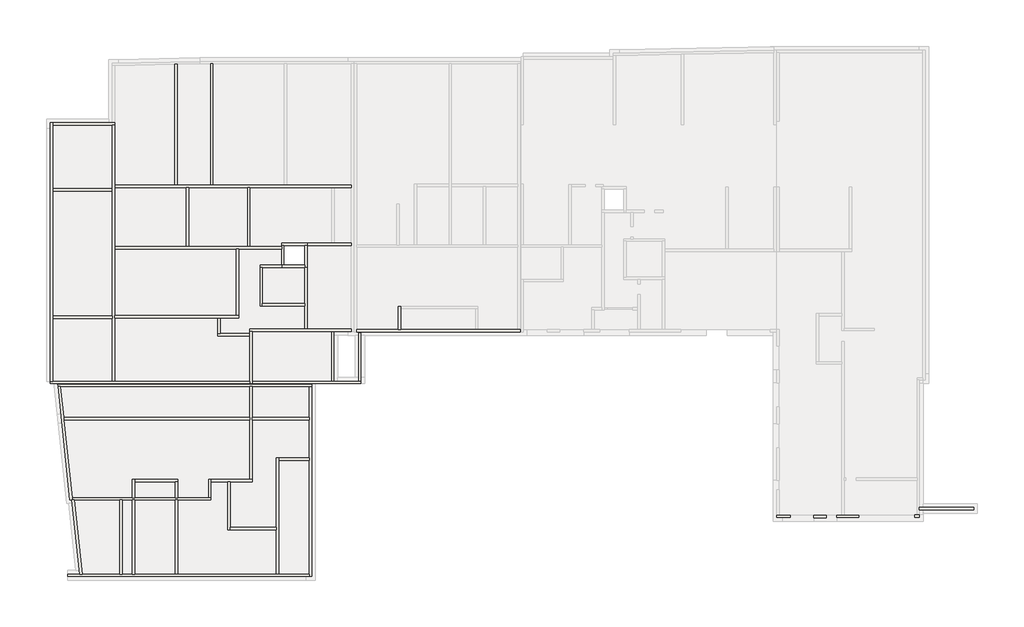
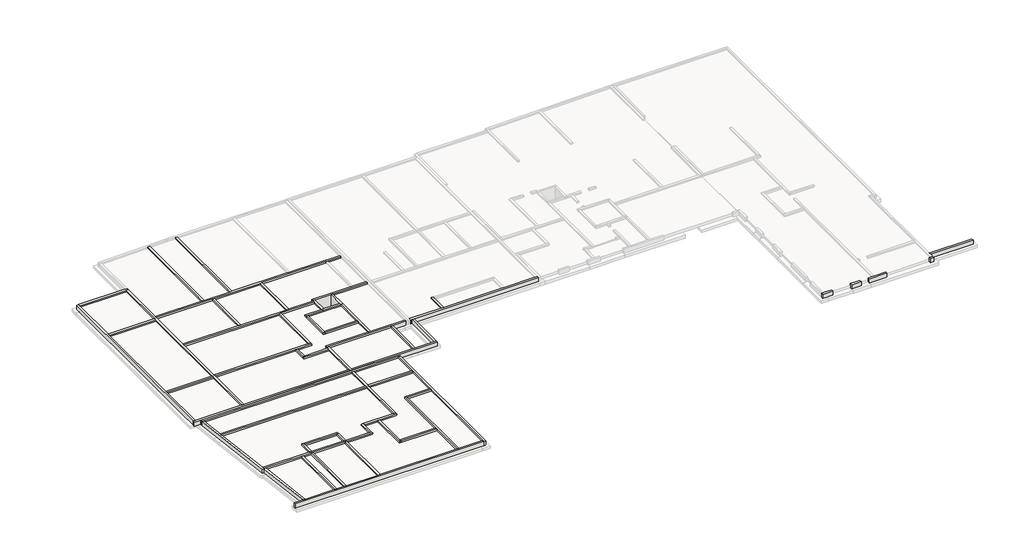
# One storey, part 1 of 5: 55 walls.
"""IFC4 building model written with IfcOpenShell, lengths in millimetres."""

from ifc_helpers import new_model, si_unit, frame, origin, place, context, project, spatial, polyline, outline, extrude, faceted_brep, element, save

model = new_model("IFC4")

# Units and contexts
model_context = context("Model", 3, world=origin())
ifc_project = project(units=[si_unit("LENGTHUNIT", "METRE", prefix="MILLI")], contexts=[model_context])

# Site, building, storey
site = spatial("IfcSite", under=ifc_project)
building = spatial("IfcBuilding", under=site)
storey = spatial("IfcBuildingStorey", under=building, Name="Base Mur soubassement", Elevation=-480.0)

# Walls
placement = place(None, origin())
element("IfcWall", 1, ObjectType="Ext. Voile BA 20", at=placement, inside=storey, context=model_context, shape_type="Brep", body=[
    faceted_brep([(71317.0236897, -917.313191, -480.0), (71117.0236897, -917.313191, -480.0), (70917.0301152, -917.313191, -480.0), (70917.0301152, -917.313191, 0.0), (71117.0236897, -917.313191, 0.0), (71317.0236897, -917.313191, 0.0), (71317.0236897, -1117.313191, -480.0), (71317.0236897, -1117.313191, 0.0), (70917.0301152, -1117.313191, 0.0), (70917.0301152, -1117.313191, -480.0)], [[[0, 1, 2, 3, 4, 5]], [[6, 7, 8, 9]], [[2, 1, 0, 6, 9]], [[3, 2, 9, 8]], [[5, 4, 3, 8, 7]], [[0, 5, 7, 6]]]),
])
element("IfcWall", 2, ObjectType="Ext. Voile BA 20", at=placement, inside=storey, context=model_context, shape_type="SweptSolid", body=[
    extrude(outline(polyline([(75887.1454515, -488.991972), (71317.0236897, -488.991972), (71317.0236897, -288.991972), (75887.1454515, -288.991972), (75887.1454515, -488.991972)])), frame((0.0, 0.0, -480.0), z_axis=(0.0, 0.0, 1.0), x_axis=(1.0, 0.0, 0.0)), (0.0, 0.0, 1.0), 480.0),
])
element("IfcWall", 3, ObjectType="Ext. Voile BA 20 + 2 enduit", at=placement, inside=storey, context=model_context, shape_type="SweptSolid", body=[
    extrude(outline(polyline([(24235.2475272, 10315.4117008), (24235.2475272, 14377.7565884), (24435.2475272, 14377.7565884), (24435.2475272, 10315.4117008), (24235.2475272, 10315.4117008)])), frame((0.0, 0.0, -480.0), z_axis=(0.0, 0.0, 1.0), x_axis=(1.0, 0.0, 0.0)), (0.0, 0.0, 1.0), 480.0),
])
element("IfcWall", 4, ObjectType="Voile BA 20", at=placement, inside=storey, context=model_context, shape_type="Brep", body=[
    faceted_brep([(66235.0708978, -937.3118451, -480.0), (65013.2256523, -937.3118451, -480.0), (64813.2256523, -937.3118451, -480.0), (64375.0708978, -937.3118451, -480.0), (64375.0708978, -937.3118451, 0.0), (64813.2256523, -937.3118451, 0.0), (65013.2256523, -937.3118451, 0.0), (66235.0708978, -937.3118451, 0.0), (66235.0708978, -1137.3118451, -480.0), (66235.0708978, -1137.3118451, 0.0), (64375.0708978, -1137.3118451, 0.0), (64375.0708978, -1137.3118451, -480.0)], [[[0, 1, 2, 3, 4, 5, 6, 7]], [[8, 9, 10, 11]], [[3, 2, 1, 0, 8, 11]], [[4, 3, 11, 10]], [[7, 6, 5, 4, 10, 9]], [[0, 7, 9, 8]]]),
])
element("IfcWall", 5, ObjectType="Voile BA 20", at=placement, inside=storey, context=model_context, shape_type="SweptSolid", body=[
    extrude(outline(polyline([(62454.5225082, -941.1001328), (63474.5225082, -941.1001328), (63474.5225082, -1141.1001328), (62454.5225082, -1141.1001328), (62454.5225082, -941.1001328)])), frame((0.0, 0.0, -480.0), z_axis=(0.0, 0.0, 1.0), x_axis=(1.0, 0.0, 0.0)), (0.0, 0.0, 1.0), 480.0),
])
element("IfcWall", 6, ObjectType="Voile BA 20", at=placement, inside=storey, context=model_context, shape_type="Brep", body=[
    faceted_brep([(60456.1712689, -933.5235574, -480.0), (59552.8933514, -933.5235574, -480.0), (59352.8933514, -933.5235574, -480.0), (59352.8933514, -933.5235574, 0.0), (59552.8933514, -933.5235574, 0.0), (60456.1712689, -933.5235574, 0.0), (60456.1712689, -1133.5235574, -480.0), (60456.1712689, -1133.5235574, 0.0), (59352.8933514, -1133.5235574, 0.0), (59352.8933514, -1133.5235574, -480.0)], [[[0, 1, 2, 3, 4, 5]], [[6, 7, 8, 9]], [[2, 1, 0, 6, 9]], [[5, 4, 3, 8, 7]], [[0, 5, 7, 6]], [[3, 2, 9, 8]]]),
])
element("IfcWall", 7, ObjectType="Voile BA 20", at=placement, inside=storey, context=model_context, shape_type="Brep", body=[
    faceted_brep([(23619.3814813, 14687.8380735, -480.0), (15109.3203129, 14687.8380735, -480.0), (15109.3203129, 14687.8380735, 0.0), (23619.3814813, 14687.8380735, 0.0), (23619.3814813, 14487.8380735, -480.0), (23619.3814813, 14487.8380735, 0.0), (22168.3655313, 14487.8380735, 0.0), (21968.3655313, 14487.8380735, 0.0), (15309.3203129, 14487.8380735, 0.0), (15109.3203129, 14487.8380735, 0.0), (15109.3203129, 14487.8380735, -480.0), (15309.3203129, 14487.8380735, -480.0), (21968.3655313, 14487.8380735, -480.0), (22168.3655313, 14487.8380735, -480.0)], [[[0, 1, 2, 3]], [[4, 5, 6, 7, 8, 9, 10, 11, 12, 13]], [[1, 0, 4, 13, 12, 11, 10]], [[3, 2, 9, 8, 7, 6, 5]], [[0, 3, 5, 4]], [[2, 1, 10, 9]]]),
])
element("IfcWall", 8, ObjectType="Voile BA 20", at=placement, inside=storey, context=model_context, shape_type="Brep", body=[
    faceted_brep([(15109.3203129, 14487.8380735, -480.0), (15109.3203129, 14317.7151114, -480.0), (15109.3203129, 14117.7151114, -480.0), (15109.3203129, 10315.4117008, -480.0), (15109.3203129, 10115.4117008, -480.0), (15109.3203129, 10115.4117008, 0.0), (15109.3203129, 10315.4117008, 0.0), (15109.3203129, 14117.7151114, 0.0), (15109.3203129, 14317.7151114, 0.0), (15109.3203129, 14487.8380735, 0.0), (15309.3203129, 14487.8380735, -480.0), (15309.3203129, 14487.8380735, 0.0), (15309.3203129, 10115.4117008, 0.0), (15309.3203129, 10115.4117008, -480.0)], [[[0, 1, 2, 3, 4, 5, 6, 7, 8, 9]], [[10, 11, 12, 13]], [[4, 3, 2, 1, 0, 10, 13]], [[9, 8, 7, 6, 5, 12, 11]], [[0, 9, 11, 10]], [[5, 4, 13, 12]]]),
])
element("IfcWall", 9, ObjectType="Voile BA 20", at=placement, inside=storey, context=model_context, shape_type="SweptSolid", body=[
    extrude(outline(polyline([(21968.3655313, 10315.4117008), (21968.3655313, 14487.8380735), (22168.3655313, 14487.8380735), (22168.3655313, 10315.4117008), (21968.3655313, 10315.4117008)])), frame((0.0, 0.0, -480.0), z_axis=(0.0, 0.0, 1.0), x_axis=(1.0, 0.0, 0.0)), (0.0, 0.0, 1.0), 480.0),
])
element("IfcWall", 10, ObjectType="Voile BA 20", at=placement, inside=storey, context=model_context, shape_type="Brep", body=[
    faceted_brep([(15109.3203129, 10315.4117008, -480.0), (3756.9078335, 10315.4117008, -480.0), (3556.9078335, 10315.4117008, -480.0), (-1463.0020232, 10315.4117008, -480.0), (-1663.0020232, 10315.4117008, -480.0), (-1663.0020232, 10315.4117008, 0.0), (-1463.0020232, 10315.4117008, 0.0), (3556.9078335, 10315.4117008, 0.0), (3756.9078335, 10315.4117008, 0.0), (15109.3203129, 10315.4117008, 0.0), (15109.3203129, 10115.4117008, -480.0), (15109.3203129, 10115.4117008, 0.0), (-1663.0020232, 10115.4117008, 0.0), (-1663.0020232, 10115.4117008, -480.0)], [[[0, 1, 2, 3, 4, 5, 6, 7, 8, 9]], [[10, 11, 12, 13]], [[4, 3, 2, 1, 0, 10, 13]], [[9, 8, 7, 6, 5, 12, 11]], [[0, 9, 11, 10]], [[5, 4, 13, 12]]]),
])
element("IfcWall", 11, ObjectType="Voile BA 20", at=placement, inside=storey, context=model_context, shape_type="Brep", body=[
    faceted_brep([(-1463.0020232, 10315.4117008, -480.0), (-1463.0020232, 15600.3661348, -480.0), (-1463.0020232, 15800.3661348, -480.0), (-1463.0020232, 26308.0923089, -480.0), (-1463.0020232, 26508.0923089, -480.0), (-1463.0020232, 31828.092309, -480.0), (-1463.0020232, 32028.092309, -480.0), (-1463.0020232, 32028.092309, 0.0), (-1463.0020232, 31828.092309, 0.0), (-1463.0020232, 26508.0923089, 0.0), (-1463.0020232, 26308.0923089, 0.0), (-1463.0020232, 15800.3661348, 0.0), (-1463.0020232, 15600.3661348, 0.0), (-1463.0020232, 10315.4117008, 0.0), (-1663.0020232, 10315.4117008, -480.0), (-1663.0020232, 10315.4117008, 0.0), (-1663.0020232, 32028.092309, 0.0), (-1663.0020232, 32028.092309, -480.0)], [[[0, 1, 2, 3, 4, 5, 6, 7, 8, 9, 10, 11, 12, 13]], [[14, 15, 16, 17]], [[6, 5, 4, 3, 2, 1, 0, 14, 17]], [[13, 12, 11, 10, 9, 8, 7, 16, 15]], [[0, 13, 15, 14]], [[7, 6, 17, 16]]]),
])
element("IfcWall", 12, ObjectType="Voile BA 20", at=placement, inside=storey, context=model_context, shape_type="Brep", body=[
    faceted_brep([(-1463.0020232, 31828.092309, -480.0), (3556.9078335, 31828.092309, -480.0), (3756.9078335, 31828.092309, -480.0), (3756.9078335, 31828.092309, 0.0), (3556.9078335, 31828.092309, 0.0), (-1463.0020232, 31828.092309, 0.0), (-1463.0020232, 32028.092309, -480.0), (-1463.0020232, 32028.092309, 0.0), (3556.9078335, 32028.092309, 0.0), (3756.9078335, 32028.092309, 0.0), (3756.9078335, 32028.092309, -480.0), (3556.9078335, 32028.092309, -480.0)], [[[0, 1, 2, 3, 4, 5]], [[6, 7, 8, 9, 10, 11]], [[2, 1, 0, 6, 11, 10]], [[5, 4, 3, 9, 8, 7]], [[0, 5, 7, 6]], [[3, 2, 10, 9]]]),
])
element("IfcWall", 13, ObjectType="Voile BA 20", at=placement, inside=storey, context=model_context, shape_type="SweptSolid", body=[
    extrude(outline(polyline([(11803.2656575, 26787.8872551), (11803.2656575, 36982.4079561), (12003.2656575, 36982.4079561), (12003.2656575, 26787.8872551), (11803.2656575, 26787.8872551)])), frame((0.0, 0.0, -480.0), z_axis=(0.0, 0.0, 1.0), x_axis=(1.0, 0.0, 0.0)), (0.0, 0.0, 1.0), 480.0),
])
element("IfcWall", 14, ObjectType="Voile BA 20", at=placement, inside=storey, context=model_context, shape_type="SweptSolid", body=[
    extrude(outline(polyline([(8817.5794193, 26787.8872551), (8817.5794193, 36940.9323768), (9017.5794193, 36944.9143723), (9017.5794193, 26787.8872551), (8817.5794193, 26787.8872551)])), frame((0.0, 0.0, -480.0), z_axis=(0.0, 0.0, 1.0), x_axis=(1.0, 0.0, 0.0)), (0.0, 0.0, 1.0), 480.0),
])
element("IfcWall", 15, ObjectType="Voile BA 20", at=placement, inside=storey, context=model_context, shape_type="Brep", body=[
    faceted_brep([(23619.3814813, 26787.8872551, -480.0), (18199.2548774, 26787.8872551, -480.0), (17999.2548774, 26787.8872551, -480.0), (12003.2656575, 26787.8872551, -480.0), (11803.2656575, 26787.8872551, -480.0), (9017.5794193, 26787.8872551, -480.0), (8817.5794193, 26787.8872551, -480.0), (3756.9078335, 26787.8872551, -480.0), (3756.9078335, 26787.8872551, 0.0), (8817.5794193, 26787.8872551, 0.0), (9017.5794193, 26787.8872551, 0.0), (11803.2656575, 26787.8872551, 0.0), (12003.2656575, 26787.8872551, 0.0), (17999.2548774, 26787.8872551, 0.0), (18199.2548774, 26787.8872551, 0.0), (23619.3814813, 26787.8872551, 0.0), (23619.3814813, 26587.8872551, -480.0), (23619.3814813, 26587.8872551, 0.0), (22195.0786989, 26587.8872551, 0.0), (21995.0786989, 26587.8872551, 0.0), (15113.9907355, 26587.8872551, 0.0), (14913.9907355, 26587.8872551, 0.0), (9978.0983694, 26587.8872551, 0.0), (9778.0983694, 26587.8872551, 0.0), (3756.9078335, 26587.8872551, 0.0), (3756.9078335, 26587.8872551, -480.0), (9778.0983694, 26587.8872551, -480.0), (9978.0983694, 26587.8872551, -480.0), (14913.9907355, 26587.8872551, -480.0), (15113.9907355, 26587.8872551, -480.0), (21995.0786989, 26587.8872551, -480.0), (22195.0786989, 26587.8872551, -480.0)], [[[0, 1, 2, 3, 4, 5, 6, 7, 8, 9, 10, 11, 12, 13, 14, 15]], [[16, 17, 18, 19, 20, 21, 22, 23, 24, 25, 26, 27, 28, 29, 30, 31]], [[7, 6, 5, 4, 3, 2, 1, 0, 16, 31, 30, 29, 28, 27, 26, 25]], [[15, 14, 13, 12, 11, 10, 9, 8, 24, 23, 22, 21, 20, 19, 18, 17]], [[0, 15, 17, 16]], [[8, 7, 25, 24]]]),
])
element("IfcWall", 16, ObjectType="Voile BA 20", at=placement, inside=storey, context=model_context, shape_type="Brep", body=[
    faceted_brep([(3556.9078335, 31828.092309, -480.0), (3556.9078335, 26508.0923089, -480.0), (3556.9078335, 26308.0923089, -480.0), (3556.9078335, 15800.3661348, -480.0), (3556.9078335, 15600.3661348, -480.0), (3556.9078335, 10315.4117008, -480.0), (3556.9078335, 10315.4117008, 0.0), (3556.9078335, 15600.3661348, 0.0), (3556.9078335, 15800.3661348, 0.0), (3556.9078335, 26308.0923089, 0.0), (3556.9078335, 26508.0923089, 0.0), (3556.9078335, 31828.092309, 0.0), (3756.9078335, 31828.092309, -480.0), (3756.9078335, 31828.092309, 0.0), (3756.9078335, 26787.8872551, 0.0), (3756.9078335, 26587.8872551, 0.0), (3756.9078335, 21625.9455164, 0.0), (3756.9078335, 21425.9455164, 0.0), (3756.9078335, 15849.6332906, 0.0), (3756.9078335, 15649.6332906, 0.0), (3756.9078335, 10315.4117008, 0.0), (3756.9078335, 10315.4117008, -480.0), (3756.9078335, 15649.6332906, -480.0), (3756.9078335, 15849.6332906, -480.0), (3756.9078335, 21425.9455164, -480.0), (3756.9078335, 21625.9455164, -480.0), (3756.9078335, 26587.8872551, -480.0), (3756.9078335, 26787.8872551, -480.0)], [[[0, 1, 2, 3, 4, 5, 6, 7, 8, 9, 10, 11]], [[12, 13, 14, 15, 16, 17, 18, 19, 20, 21, 22, 23, 24, 25, 26, 27]], [[5, 4, 3, 2, 1, 0, 12, 27, 26, 25, 24, 23, 22, 21]], [[11, 10, 9, 8, 7, 6, 20, 19, 18, 17, 16, 15, 14, 13]], [[0, 11, 13, 12]], [[6, 5, 21, 20]]]),
])
element("IfcWall", 17, ObjectType="Voile BA 20", at=placement, inside=storey, context=model_context, shape_type="SweptSolid", body=[
    extrude(outline(polyline([(-1463.0020232, 15800.3661348), (3556.9078335, 15800.3661348), (3556.9078335, 15600.3661348), (-1463.0020232, 15600.3661348), (-1463.0020232, 15800.3661348)])), frame((0.0, 0.0, -480.0), z_axis=(0.0, 0.0, 1.0), x_axis=(1.0, 0.0, 0.0)), (0.0, 0.0, 1.0), 480.0),
])
element("IfcWall", 18, ObjectType="Voile BA 20", at=placement, inside=storey, context=model_context, shape_type="SweptSolid", body=[
    extrude(outline(polyline([(-1463.0020232, 26508.0923089), (3556.9078335, 26508.0923089), (3556.9078335, 26308.0923089), (-1463.0020232, 26308.0923089), (-1463.0020232, 26508.0923089)])), frame((0.0, 0.0, -480.0), z_axis=(0.0, 0.0, 1.0), x_axis=(1.0, 0.0, 0.0)), (0.0, 0.0, 1.0), 480.0),
])
element("IfcWall", 19, ObjectType="Voile BA 20", at=placement, inside=storey, context=model_context, shape_type="Brep", body=[
    faceted_brep([(20295.920738, 10065.4625547, -480.0), (-1019.2711952, 10065.4625547, -480.0), (-1019.2711952, 10065.4625547, 0.0), (20295.920738, 10065.4625547, 0.0), (20295.920738, 9865.4625547, -480.0), (20295.920738, 9865.4625547, 0.0), (20095.920738, 9865.4625547, 0.0), (15309.3203129, 9865.4625547, 0.0), (15109.3203129, 9865.4625547, 0.0), (-797.1486922, 9865.4625547, 0.0), (-998.2503481, 9865.4625547, 0.0), (-998.2503481, 9865.4625547, -480.0), (-797.1486922, 9865.4625547, -480.0), (15109.3203129, 9865.4625547, -480.0), (15309.3203129, 9865.4625547, -480.0), (20095.920738, 9865.4625547, -480.0)], [[[0, 1, 2, 3]], [[4, 5, 6, 7, 8, 9, 10, 11, 12, 13, 14, 15]], [[1, 0, 4, 15, 14, 13, 12, 11]], [[3, 2, 10, 9, 8, 7, 6, 5]], [[2, 1, 11, 10]], [[0, 3, 5, 4]]]),
])
element("IfcWall", 20, ObjectType="Voile BA 20", at=placement, inside=storey, context=model_context, shape_type="Brep", body=[
    faceted_brep([(-998.2503481, 9865.4625547, -480.0), (2.7965204, 341.1378118, -480.0), (2.7965204, 341.1378118, 0.0), (-998.2503481, 9865.4625547, 0.0), (-797.1486922, 9865.4625547, -480.0), (-797.1486922, 9865.4625547, 0.0), (-524.2025618, 7268.5535935, 0.0), (-503.1817148, 7068.5535935, 0.0), (182.8773292, 541.1378118, 0.0), (203.8981763, 341.1378118, 0.0), (203.8981763, 341.1378118, -480.0), (182.8773292, 541.1378118, -480.0), (-503.1817148, 7068.5535935, -480.0), (-524.2025618, 7268.5535935, -480.0), (162.0229554, 341.1378118, -480.0), (162.0229554, 341.1378118, 0.0)], [[[0, 1, 2, 3]], [[4, 5, 6, 7, 8, 9, 10, 11, 12, 13]], [[1, 0, 4, 13, 12, 11, 10, 14]], [[3, 2, 15, 9, 8, 7, 6, 5]], [[0, 3, 5, 4]], [[2, 1, 14, 10, 9, 15]]]),
])
element("IfcWall", 21, ObjectType="Voile BA 20", at=placement, inside=storey, context=model_context, shape_type="Brep", body=[
    faceted_brep([(203.8981763, 341.1378118, -480.0), (363.1246113, 341.1378118, -480.0), (4182.6863545, 341.1378118, -480.0), (4382.6863545, 341.1378118, -480.0), (5232.5686745, 341.1378118, -480.0), (5432.5686745, 341.1378118, -480.0), (8859.0521384, 341.1378118, -480.0), (9059.0521384, 341.1378118, -480.0), (11842.4727838, 341.1378118, -480.0), (11842.4727838, 341.1378118, 0.0), (9059.0521384, 341.1378118, 0.0), (8859.0521384, 341.1378118, 0.0), (5432.5686745, 341.1378118, 0.0), (5232.5686745, 341.1378118, 0.0), (4382.6863545, 341.1378118, 0.0), (4182.6863545, 341.1378118, 0.0), (363.1246113, 341.1378118, 0.0), (203.8981763, 341.1378118, 0.0), (182.8773292, 541.1378118, -480.0), (182.8773292, 541.1378118, 0.0), (5232.5686745, 541.1378118, 0.0), (5432.5686745, 541.1378118, 0.0), (8859.0521384, 541.1378118, 0.0), (9059.0521384, 541.1378118, 0.0), (11642.4727838, 541.1378118, 0.0), (11842.4727838, 541.1378118, 0.0), (11842.4727838, 541.1378118, -480.0), (11642.4727838, 541.1378118, -480.0), (9059.0521384, 541.1378118, -480.0), (8859.0521384, 541.1378118, -480.0), (5432.5686745, 541.1378118, -480.0), (5232.5686745, 541.1378118, -480.0)], [[[0, 1, 2, 3, 4, 5, 6, 7, 8, 9, 10, 11, 12, 13, 14, 15, 16, 17]], [[18, 19, 20, 21, 22, 23, 24, 25, 26, 27, 28, 29, 30, 31]], [[8, 7, 6, 5, 4, 3, 2, 1, 0, 18, 31, 30, 29, 28, 27, 26]], [[17, 16, 15, 14, 13, 12, 11, 10, 9, 25, 24, 23, 22, 21, 20, 19]], [[9, 8, 26, 25]], [[0, 17, 19, 18]]]),
])
element("IfcWall", 22, ObjectType="Voile BA 20", at=placement, inside=storey, context=model_context, shape_type="Brep", body=[
    faceted_brep([(11842.4727838, 541.1378118, -480.0), (11842.4727838, 1854.5667291, -480.0), (11842.4727838, 2054.5667291, -480.0), (11842.4727838, 2054.5667291, 0.0), (11842.4727838, 1854.5667291, 0.0), (11842.4727838, 541.1378118, 0.0), (11642.4727838, 541.1378118, -480.0), (11642.4727838, 541.1378118, 0.0), (11642.4727838, 2054.5667291, 0.0), (11642.4727838, 2054.5667291, -480.0)], [[[0, 1, 2, 3, 4, 5]], [[6, 7, 8, 9]], [[2, 1, 0, 6, 9]], [[5, 4, 3, 8, 7]], [[0, 5, 7, 6]], [[3, 2, 9, 8]]]),
])
element("IfcWall", 23, ObjectType="Voile BA 20", at=placement, inside=storey, context=model_context, shape_type="Brep", body=[
    faceted_brep([(11842.4727838, 1854.5667291, -480.0), (13265.8329945, 1854.5667291, -480.0), (13465.8329945, 1854.5667291, -480.0), (15309.3203129, 1854.5667291, -480.0), (15309.3203129, 1854.5667291, 0.0), (13465.8329945, 1854.5667291, 0.0), (13265.8329945, 1854.5667291, 0.0), (11842.4727838, 1854.5667291, 0.0), (11842.4727838, 2054.5667291, -480.0), (11842.4727838, 2054.5667291, 0.0), (15109.3203129, 2054.5667291, 0.0), (15309.3203129, 2054.5667291, 0.0), (15309.3203129, 2054.5667291, -480.0), (15109.3203129, 2054.5667291, -480.0)], [[[0, 1, 2, 3, 4, 5, 6, 7]], [[8, 9, 10, 11, 12, 13]], [[3, 2, 1, 0, 8, 13, 12]], [[7, 6, 5, 4, 11, 10, 9]], [[0, 7, 9, 8]], [[4, 3, 12, 11]]]),
])
element("IfcWall", 24, ObjectType="Voile BA 20", at=placement, inside=storey, context=model_context, shape_type="Brep", body=[
    faceted_brep([(15309.3203129, 2054.5667291, -480.0), (15309.3203129, 7068.5535935, -480.0), (15309.3203129, 7268.5535935, -480.0), (15309.3203129, 9865.4625547, -480.0), (15309.3203129, 9865.4625547, 0.0), (15309.3203129, 7268.5535935, 0.0), (15309.3203129, 7068.5535935, 0.0), (15309.3203129, 2054.5667291, 0.0), (15109.3203129, 2054.5667291, -480.0), (15109.3203129, 2054.5667291, 0.0), (15109.3203129, 7068.5535935, 0.0), (15109.3203129, 7268.5535935, 0.0), (15109.3203129, 9865.4625547, 0.0), (15109.3203129, 9865.4625547, -480.0), (15109.3203129, 7268.5535935, -480.0), (15109.3203129, 7068.5535935, -480.0)], [[[0, 1, 2, 3, 4, 5, 6, 7]], [[8, 9, 10, 11, 12, 13, 14, 15]], [[3, 2, 1, 0, 8, 15, 14, 13]], [[7, 6, 5, 4, 12, 11, 10, 9]], [[0, 7, 9, 8]], [[4, 3, 13, 12]]]),
])
element("IfcWall", 25, ObjectType="Voile BA 20", at=placement, inside=storey, context=model_context, shape_type="SweptSolid", body=[
    extrude(outline(polyline([(-503.1817148, 7068.5535935), (-524.2025618, 7268.5535935), (15109.3203129, 7268.5535935), (15109.3203129, 7068.5535935), (-503.1817148, 7068.5535935)])), frame((0.0, 0.0, -480.0), z_axis=(0.0, 0.0, 1.0), x_axis=(1.0, 0.0, 0.0)), (0.0, 0.0, 1.0), 480.0),
    extrude(outline(polyline([(20095.920738, 7268.5535935), (20095.920738, 7068.5535935), (15309.3203129, 7068.5535935), (15309.3203129, 7268.5535935), (20095.920738, 7268.5535935)])), frame((0.0, 0.0, -480.0), z_axis=(0.0, 0.0, 1.0), x_axis=(1.0, 0.0, 0.0)), (0.0, 0.0, 1.0), 480.0),
])
element("IfcWall", 26, ObjectType="Voile BA 20", at=placement, inside=storey, context=model_context, shape_type="Brep", body=[
    faceted_brep([(20095.920738, 9865.4625547, -480.0), (20095.920738, 7268.5535935, -480.0), (20095.920738, 7068.5535935, -480.0), (20095.920738, 3881.8208674, -480.0), (20095.920738, 3681.8208674, -480.0), (20095.920738, -5885.1620119, -480.0), (20095.920738, -6085.1620119, -480.0), (20095.920738, -6085.1620119, 0.0), (20095.920738, -5885.1620119, 0.0), (20095.920738, 3681.8208674, 0.0), (20095.920738, 3881.8208674, 0.0), (20095.920738, 7068.5535935, 0.0), (20095.920738, 7268.5535935, 0.0), (20095.920738, 9865.4625547, 0.0), (20295.920738, 9865.4625547, -480.0), (20295.920738, 9865.4625547, 0.0), (20295.920738, -6085.1620119, 0.0), (20295.920738, -6085.1620119, -480.0)], [[[0, 1, 2, 3, 4, 5, 6, 7, 8, 9, 10, 11, 12, 13]], [[14, 15, 16, 17]], [[6, 5, 4, 3, 2, 1, 0, 14, 17]], [[13, 12, 11, 10, 9, 8, 7, 16, 15]], [[0, 13, 15, 14]], [[7, 6, 17, 16]]]),
])
element("IfcWall", 27, ObjectType="Voile BA 20", at=placement, inside=storey, context=model_context, shape_type="Brep", body=[
    faceted_brep([(20095.920738, -5885.1620119, -480.0), (17523.8377948, -5885.1620119, -480.0), (17323.8377948, -5885.1620119, -480.0), (9059.0521384, -5885.1620119, -480.0), (8859.0521384, -5885.1620119, -480.0), (5432.5686745, -5885.1620119, -480.0), (5232.5686745, -5885.1620119, -480.0), (4382.6863545, -5885.1620119, -480.0), (4182.6863545, -5885.1620119, -480.0), (1017.5350928, -5885.1620119, -480.0), (816.4334369, -5885.1620119, -480.0), (-184.0651209, -5885.1620119, -480.0), (-184.0651209, -5885.1620119, 0.0), (816.4334369, -5885.1620119, 0.0), (1017.5350928, -5885.1620119, 0.0), (4182.6863545, -5885.1620119, 0.0), (4382.6863545, -5885.1620119, 0.0), (5232.5686745, -5885.1620119, 0.0), (5432.5686745, -5885.1620119, 0.0), (8859.0521384, -5885.1620119, 0.0), (9059.0521384, -5885.1620119, 0.0), (17323.8377948, -5885.1620119, 0.0), (17523.8377948, -5885.1620119, 0.0), (20095.920738, -5885.1620119, 0.0), (20095.920738, -6085.1620119, -480.0), (20095.920738, -6085.1620119, 0.0), (-184.0651209, -6085.1620119, 0.0), (-184.0651209, -6085.1620119, -480.0)], [[[0, 1, 2, 3, 4, 5, 6, 7, 8, 9, 10, 11, 12, 13, 14, 15, 16, 17, 18, 19, 20, 21, 22, 23]], [[24, 25, 26, 27]], [[11, 10, 9, 8, 7, 6, 5, 4, 3, 2, 1, 0, 24, 27]], [[12, 11, 27, 26]], [[23, 22, 21, 20, 19, 18, 17, 16, 15, 14, 13, 12, 26, 25]], [[0, 23, 25, 24]]]),
])
element("IfcWall", 28, ObjectType="Voile BA 20", at=placement, inside=storey, context=model_context, shape_type="Brep", body=[
    faceted_brep([(162.0229554, 341.1378118, -480.0), (816.4334369, -5885.1620119, -480.0), (816.4334369, -5885.1620119, 0.0), (162.0229554, 341.1378118, 0.0), (363.1246113, 341.1378118, -480.0), (363.1246113, 341.1378118, 0.0), (1017.5350928, -5885.1620119, 0.0), (1017.5350928, -5885.1620119, -480.0), (203.8981763, 341.1378118, -480.0), (203.8981763, 341.1378118, 0.0)], [[[0, 1, 2, 3]], [[4, 5, 6, 7]], [[1, 0, 8, 4, 7]], [[3, 2, 6, 5, 9]], [[0, 3, 9, 5, 4, 8]], [[2, 1, 7, 6]]]),
])
element("IfcWall", 29, ObjectType="Voile BA 20", at=placement, inside=storey, context=model_context, shape_type="SweptSolid", body=[
    extrude(outline(polyline([(4182.6863545, -5885.1620119), (4182.6863545, 341.1378118), (4382.6863545, 341.1378118), (4382.6863545, -5885.1620119), (4182.6863545, -5885.1620119)])), frame((0.0, 0.0, -480.0), z_axis=(0.0, 0.0, 1.0), x_axis=(1.0, 0.0, 0.0)), (0.0, 0.0, 1.0), 480.0),
])
element("IfcWall", 30, ObjectType="Voile BA 20", at=placement, inside=storey, context=model_context, shape_type="Brep", body=[
    faceted_brep([(5232.5686745, -5885.1620119, -480.0), (5232.5686745, -5885.1620119, 0.0), (5232.5686745, 341.1378118, 0.0), (5232.5686745, 341.1378118, -480.0), (5432.5686745, -5885.1620119, 0.0), (5432.5686745, -5885.1620119, -480.0), (5432.5686745, 341.1378118, -480.0), (5432.5686745, 341.1378118, 0.0)], [[[0, 1, 2, 3]], [[4, 5, 6, 7]], [[5, 0, 3, 6]], [[1, 4, 7, 2]], [[1, 0, 5, 4]], [[3, 2, 7, 6]]]),
    faceted_brep([(5232.5686745, 2054.6479064, 0.0), (5232.5686745, 2054.6479064, -480.0), (5232.5686745, 541.1378118, -480.0), (5232.5686745, 541.1378118, 0.0), (5432.5686745, 2054.6479064, -480.0), (5432.5686745, 2054.6479064, 0.0), (5432.5686745, 1854.6479064, 0.0), (5432.5686745, 541.1378118, 0.0), (5432.5686745, 541.1378118, -480.0), (5432.5686745, 1854.6479064, -480.0)], [[[0, 1, 2, 3]], [[4, 5, 6, 7, 8, 9]], [[1, 4, 9, 8, 2]], [[5, 0, 3, 7, 6]], [[3, 2, 8, 7]], [[1, 0, 5, 4]]]),
])
element("IfcWall", 31, ObjectType="Voile BA 20", at=placement, inside=storey, context=model_context, shape_type="Brep", body=[
    faceted_brep([(9059.0521384, 2054.6479064, -480.0), (5432.5686745, 2054.6479064, -480.0), (5432.5686745, 2054.6479064, 0.0), (9059.0521384, 2054.6479064, 0.0), (9059.0521384, 1854.6479064, -480.0), (9059.0521384, 1854.6479064, 0.0), (8859.0521384, 1854.6479064, 0.0), (5432.5686745, 1854.6479064, 0.0), (5432.5686745, 1854.6479064, -480.0), (8859.0521384, 1854.6479064, -480.0)], [[[0, 1, 2, 3]], [[4, 5, 6, 7, 8, 9]], [[1, 0, 4, 9, 8]], [[3, 2, 7, 6, 5]], [[2, 1, 8, 7]], [[0, 3, 5, 4]]]),
])
element("IfcWall", 32, ObjectType="Voile BA 20", at=placement, inside=storey, context=model_context, shape_type="SweptSolid", body=[
    extrude(outline(polyline([(8859.0521384, 1854.6479064), (9059.0521384, 1854.6479064), (9059.0521384, 541.1378118), (8859.0521384, 541.1378118), (8859.0521384, 1854.6479064)])), frame((0.0, 0.0, -480.0), z_axis=(0.0, 0.0, 1.0), x_axis=(1.0, 0.0, 0.0)), (0.0, 0.0, 1.0), 480.0),
    extrude(outline(polyline([(9059.0521384, -5885.1620119), (8859.0521384, -5885.1620119), (8859.0521384, 341.1378118), (9059.0521384, 341.1378118), (9059.0521384, -5885.1620119)])), frame((0.0, 0.0, -480.0), z_axis=(0.0, 0.0, 1.0), x_axis=(1.0, 0.0, 0.0)), (0.0, 0.0, 1.0), 480.0),
])
element("IfcWall", 33, ObjectType="Voile BA 20", at=placement, inside=storey, context=model_context, shape_type="Brep", body=[
    faceted_brep([(13265.8329945, 1854.5667291, -480.0), (13265.8329945, -2145.4332709, -480.0), (13265.8329945, -2145.4332709, 0.0), (13265.8329945, 1854.5667291, 0.0), (13465.8329945, 1854.5667291, -480.0), (13465.8329945, 1854.5667291, 0.0), (13465.8329945, -1945.4332709, 0.0), (13465.8329945, -2145.4332709, 0.0), (13465.8329945, -2145.4332709, -480.0), (13465.8329945, -1945.4332709, -480.0)], [[[0, 1, 2, 3]], [[4, 5, 6, 7, 8, 9]], [[1, 0, 4, 9, 8]], [[3, 2, 7, 6, 5]], [[0, 3, 5, 4]], [[2, 1, 8, 7]]]),
])
element("IfcWall", 34, ObjectType="Voile BA 20", at=placement, inside=storey, context=model_context, shape_type="SweptSolid", body=[
    extrude(outline(polyline([(17323.8377948, -2145.4332709), (13465.8329945, -2145.4332709), (13465.8329945, -1945.4332709), (17323.8377948, -1945.4332709), (17323.8377948, -2145.4332709)])), frame((0.0, 0.0, -480.0), z_axis=(0.0, 0.0, 1.0), x_axis=(1.0, 0.0, 0.0)), (0.0, 0.0, 1.0), 480.0),
])
element("IfcWall", 35, ObjectType="Voile BA 20", at=placement, inside=storey, context=model_context, shape_type="Brep", body=[
    faceted_brep([(17323.8377948, 3881.8208674, -480.0), (17323.8377948, -1945.4332709, -480.0), (17323.8377948, -2145.4332709, -480.0), (17323.8377948, -5885.1620119, -480.0), (17323.8377948, -5885.1620119, 0.0), (17323.8377948, -2145.4332709, 0.0), (17323.8377948, -1945.4332709, 0.0), (17323.8377948, 3881.8208674, 0.0), (17523.8377948, 3881.8208674, -480.0), (17523.8377948, 3881.8208674, 0.0), (17523.8377948, 3681.8208674, 0.0), (17523.8377948, -5885.1620119, 0.0), (17523.8377948, -5885.1620119, -480.0), (17523.8377948, 3681.8208674, -480.0)], [[[0, 1, 2, 3, 4, 5, 6, 7]], [[8, 9, 10, 11, 12, 13]], [[3, 2, 1, 0, 8, 13, 12]], [[7, 6, 5, 4, 11, 10, 9]], [[0, 7, 9, 8]], [[4, 3, 12, 11]]]),
])
element("IfcWall", 36, ObjectType="Voile BA 20", at=placement, inside=storey, context=model_context, shape_type="SweptSolid", body=[
    extrude(outline(polyline([(20095.920738, 3681.8208674), (17523.8377948, 3681.8208674), (17523.8377948, 3881.8208674), (20095.920738, 3881.8208674), (20095.920738, 3681.8208674)])), frame((0.0, 0.0, -480.0), z_axis=(0.0, 0.0, 1.0), x_axis=(1.0, 0.0, 0.0)), (0.0, 0.0, 1.0), 480.0),
])
element("IfcWall", 37, ObjectType="Voile BA 20", at=placement, inside=storey, context=model_context, shape_type="Brep", body=[
    faceted_brep([(15109.3203129, 14317.7151114, -480.0), (12609.3203129, 14317.7151114, -480.0), (12409.3203129, 14317.7151114, -480.0), (12409.3203129, 14317.7151114, 0.0), (12609.3203129, 14317.7151114, 0.0), (15109.3203129, 14317.7151114, 0.0), (15109.3203129, 14117.7151114, -480.0), (15109.3203129, 14117.7151114, 0.0), (12409.3203129, 14117.7151114, 0.0), (12409.3203129, 14117.7151114, -480.0)], [[[0, 1, 2, 3, 4, 5]], [[6, 7, 8, 9]], [[2, 1, 0, 6, 9]], [[5, 4, 3, 8, 7]], [[0, 5, 7, 6]], [[3, 2, 9, 8]]]),
])
element("IfcWall", 38, ObjectType="Voile BA 20", at=placement, inside=storey, context=model_context, shape_type="SweptSolid", body=[
    extrude(outline(polyline([(12609.3203129, 15649.6332906), (12609.3203129, 14317.7151114), (12409.3203129, 14317.7151114), (12409.3203129, 15649.6332906), (12609.3203129, 15649.6332906)])), frame((0.0, 0.0, -480.0), z_axis=(0.0, 0.0, 1.0), x_axis=(1.0, 0.0, 0.0)), (0.0, 0.0, 1.0), 480.0),
])
element("IfcWall", 39, ObjectType="Voile BA 20", at=placement, inside=storey, context=model_context, shape_type="Brep", body=[
    faceted_brep([(3756.9078335, 15649.6332906, -480.0), (12409.3203129, 15649.6332906, -480.0), (12609.3203129, 15649.6332906, -480.0), (14164.9548931, 15649.6332906, -480.0), (14164.9548931, 15649.6332906, 0.0), (12609.3203129, 15649.6332906, 0.0), (12409.3203129, 15649.6332906, 0.0), (3756.9078335, 15649.6332906, 0.0), (3756.9078335, 15849.6332906, -480.0), (3756.9078335, 15849.6332906, 0.0), (13964.9548931, 15849.6332906, 0.0), (14164.9548931, 15849.6332906, 0.0), (14164.9548931, 15849.6332906, -480.0), (13964.9548931, 15849.6332906, -480.0)], [[[0, 1, 2, 3, 4, 5, 6, 7]], [[8, 9, 10, 11, 12, 13]], [[3, 2, 1, 0, 8, 13, 12]], [[7, 6, 5, 4, 11, 10, 9]], [[4, 3, 12, 11]], [[0, 7, 9, 8]]]),
])
element("IfcWall", 40, ObjectType="Voile BA 20", at=placement, inside=storey, context=model_context, shape_type="SweptSolid", body=[
    extrude(outline(polyline([(14164.9548931, 21425.9455164), (14164.9548931, 15849.6332906), (13964.9548931, 15849.6332906), (13964.9548931, 21425.9455164), (14164.9548931, 21425.9455164)])), frame((0.0, 0.0, -480.0), z_axis=(0.0, 0.0, 1.0), x_axis=(1.0, 0.0, 0.0)), (0.0, 0.0, 1.0), 480.0),
])
element("IfcWall", 41, ObjectType="Voile BA 20", at=placement, inside=storey, context=model_context, shape_type="Brep", body=[
    faceted_brep([(3756.9078335, 21425.9455164, -480.0), (13964.9548931, 21425.9455164, -480.0), (14164.9548931, 21425.9455164, -480.0), (17765.1211572, 21425.9455164, -480.0), (17765.1211572, 21425.9455164, 0.0), (14164.9548931, 21425.9455164, 0.0), (13964.9548931, 21425.9455164, 0.0), (3756.9078335, 21425.9455164, 0.0), (3756.9078335, 21625.9455164, -480.0), (3756.9078335, 21625.9455164, 0.0), (9778.0983694, 21625.9455164, 0.0), (9978.0983694, 21625.9455164, 0.0), (14913.9907355, 21625.9455164, 0.0), (15113.9907355, 21625.9455164, 0.0), (17765.1211572, 21625.9455164, 0.0), (17765.1211572, 21625.9455164, -480.0), (15113.9907355, 21625.9455164, -480.0), (14913.9907355, 21625.9455164, -480.0), (9978.0983694, 21625.9455164, -480.0), (9778.0983694, 21625.9455164, -480.0)], [[[0, 1, 2, 3, 4, 5, 6, 7]], [[8, 9, 10, 11, 12, 13, 14, 15, 16, 17, 18, 19]], [[3, 2, 1, 0, 8, 19, 18, 17, 16, 15]], [[7, 6, 5, 4, 14, 13, 12, 11, 10, 9]], [[0, 7, 9, 8]], [[4, 3, 15, 14]]]),
])
element("IfcWall", 42, ObjectType="Voile BA 20", at=placement, inside=storey, context=model_context, shape_type="SweptSolid", body=[
    extrude(outline(polyline([(9778.0983694, 21625.9455164), (9778.0983694, 26587.8872551), (9978.0983694, 26587.8872551), (9978.0983694, 21625.9455164), (9778.0983694, 21625.9455164)])), frame((0.0, 0.0, -480.0), z_axis=(0.0, 0.0, 1.0), x_axis=(1.0, 0.0, 0.0)), (0.0, 0.0, 1.0), 480.0),
])
element("IfcWall", 43, ObjectType="Voile BA 20", at=placement, inside=storey, context=model_context, shape_type="SweptSolid", body=[
    extrude(outline(polyline([(14913.9907355, 21625.9455164), (14913.9907355, 26587.8872551), (15113.9907355, 26587.8872551), (15113.9907355, 21625.9455164), (14913.9907355, 21625.9455164)])), frame((0.0, 0.0, -480.0), z_axis=(0.0, 0.0, 1.0), x_axis=(1.0, 0.0, 0.0)), (0.0, 0.0, 1.0), 480.0),
])
element("IfcWall", 44, ObjectType="Voile BA 20", at=placement, inside=storey, context=model_context, shape_type="Brep", body=[
    faceted_brep([(23619.3814813, 21916.9971343, -480.0), (22195.0786989, 21916.9971343, -480.0), (21995.0786989, 21916.9971343, -480.0), (19929.9333488, 21916.9971343, -480.0), (19929.9333488, 21916.9971343, 0.0), (21995.0786989, 21916.9971343, 0.0), (22195.0786989, 21916.9971343, 0.0), (23619.3814813, 21916.9971343, 0.0), (23619.3814813, 21716.9971343, -480.0), (23619.3814813, 21716.9971343, 0.0), (19929.9333488, 21716.9971343, 0.0), (19929.9333488, 21716.9971343, -480.0)], [[[0, 1, 2, 3, 4, 5, 6, 7]], [[8, 9, 10, 11]], [[3, 2, 1, 0, 8, 11]], [[7, 6, 5, 4, 10, 9]], [[0, 7, 9, 8]], [[4, 3, 11, 10]]]),
])
element("IfcWall", 45, ObjectType="Voile BA 20", at=placement, inside=storey, context=model_context, shape_type="Brep", body=[
    faceted_brep([(24079.3002373, 14464.3593187, -480.0), (37808.398272, 14464.3593187, -480.0), (37808.398272, 14464.3593187, 0.0), (24079.3002373, 14464.3593187, 0.0), (24079.3002373, 14664.3593187, -480.0), (24079.3002373, 14664.3593187, 0.0), (27566.9796966, 14664.3593187, 0.0), (27766.9796966, 14664.3593187, 0.0), (34052.3966699, 14664.3593187, 0.0), (34252.3966699, 14664.3593187, 0.0), (37608.398272, 14664.3593187, 0.0), (37808.398272, 14664.3593187, 0.0), (37808.398272, 14664.3593187, -480.0), (37608.398272, 14664.3593187, -480.0), (34252.3966699, 14664.3593187, -480.0), (34052.3966699, 14664.3593187, -480.0), (27766.9796966, 14664.3593187, -480.0), (27566.9796966, 14664.3593187, -480.0)], [[[0, 1, 2, 3]], [[4, 5, 6, 7, 8, 9, 10, 11, 12, 13, 14, 15, 16, 17]], [[1, 0, 4, 17, 16, 15, 14, 13, 12]], [[3, 2, 11, 10, 9, 8, 7, 6, 5]], [[0, 3, 5, 4]], [[2, 1, 12, 11]]]),
])
element("IfcWall", 46, ObjectType="Voile BA 20", at=placement, inside=storey, context=model_context, shape_type="Brep", body=[
    faceted_brep([(27766.9796966, 14664.3593187, -480.0), (27766.9796966, 16411.4012934, -480.0), (27766.9796966, 16611.4012934, -480.0), (27766.9796966, 16611.4012934, 0.0), (27766.9796966, 16411.4012934, 0.0), (27766.9796966, 14664.3593187, 0.0), (27566.9796966, 14664.3593187, -480.0), (27566.9796966, 14664.3593187, 0.0), (27566.9796966, 16611.4012934, 0.0), (27566.9796966, 16611.4012934, -480.0)], [[[0, 1, 2, 3, 4, 5]], [[6, 7, 8, 9]], [[2, 1, 0, 6, 9]], [[5, 4, 3, 8, 7]], [[0, 5, 7, 6]], [[3, 2, 9, 8]]]),
])
element("IfcWall", 47, ObjectType="Voile BA 20", at=placement, inside=storey, context=model_context, shape_type="SweptSolid", body=[
    extrude(outline(polyline([(24435.2475272, 10115.4117008), (15309.3203129, 10115.4117008), (15309.3203129, 10315.4117008), (24435.2475272, 10315.4117008), (24435.2475272, 10115.4117008)])), frame((0.0, 0.0, -480.0), z_axis=(0.0, 0.0, 1.0), x_axis=(1.0, 0.0, 0.0)), (0.0, 0.0, 1.0), 480.0),
])
element("IfcWall", 48, ObjectType="Voile BA 20", at=placement, inside=storey, context=model_context, shape_type="Brep", body=[
    faceted_brep([(17765.1211572, 21716.9971343, -1400.0), (17965.1211572, 21716.9971343, -1400.0), (19729.9333488, 21716.9971343, -1400.0), (19929.9333488, 21716.9971343, -1400.0), (19929.9333488, 21716.9971343, 0.0), (19729.9333488, 21716.9971343, 0.0), (17965.1211572, 21716.9971343, 0.0), (17765.1211572, 21716.9971343, 0.0), (17765.1211572, 21916.9971343, -1400.0), (17765.1211572, 21916.9971343, 0.0), (19929.9333488, 21916.9971343, 0.0), (19929.9333488, 21916.9971343, -1400.0)], [[[0, 1, 2, 3, 4, 5, 6, 7]], [[8, 9, 10, 11]], [[3, 2, 1, 0, 8, 11]], [[7, 6, 5, 4, 10, 9]], [[0, 7, 9, 8]], [[3, 11, 10, 4]]]),
])
element("IfcWall", 49, ObjectType="Voile BA 20", at=placement, inside=storey, context=model_context, shape_type="Brep", body=[
    faceted_brep([(19729.9333488, 21716.9971343, 0.0), (19729.9333488, 21716.9971343, -1400.0), (19729.9333488, 20064.6534315, -1400.0), (19729.9333488, 19864.6534315, -1400.0), (19729.9333488, 19864.6534315, -480.0), (19729.9333488, 19864.6534315, 0.0), (19729.9333488, 20064.6534315, 0.0), (19929.9333488, 21716.9971343, -1400.0), (19929.9333488, 21716.9971343, 0.0), (19929.9333488, 19864.6534315, 0.0), (19929.9333488, 19864.6534315, -480.0), (19929.9333488, 19864.6534315, -1400.0)], [[[0, 1, 2, 3, 4, 5, 6]], [[7, 8, 9, 10, 11]], [[3, 2, 1, 7, 11]], [[0, 6, 5, 9, 8]], [[0, 8, 7, 1]], [[3, 11, 10, 9, 5, 4]]]),
])
element("IfcWall", 50, ObjectType="Voile BA 20", at=placement, inside=storey, context=model_context, shape_type="Brep", body=[
    faceted_brep([(19729.9333488, 20064.6534315, 0.0), (19729.9333488, 20064.6534315, -1400.0), (17965.1211572, 20064.6534315, -1400.0), (17765.1211572, 20064.6534315, -1400.0), (17765.1211572, 20064.6534315, -480.0), (17765.1211572, 20064.6534315, 0.0), (17965.1211572, 20064.6534315, 0.0), (19729.9333488, 19864.6534315, -1400.0), (19729.9333488, 19864.6534315, 0.0), (17765.1211572, 19864.6534315, 0.0), (17765.1211572, 19864.6534315, -480.0), (17765.1211572, 19864.6534315, -1400.0)], [[[0, 1, 2, 3, 4, 5, 6]], [[7, 8, 9, 10, 11]], [[3, 2, 1, 7, 11]], [[0, 6, 5, 9, 8]], [[0, 8, 7, 1]], [[3, 11, 10, 9, 5, 4]]]),
])
element("IfcWall", 51, ObjectType="Voile BA 20", at=placement, inside=storey, context=model_context, shape_type="SweptSolid", body=[
    extrude(outline(polyline([(17965.1211572, 21716.9971343), (17965.1211572, 20064.6534315), (17765.1211572, 20064.6534315), (17765.1211572, 21716.9971343), (17965.1211572, 21716.9971343)])), frame((0.0, 0.0, -1400.0), z_axis=(0.0, 0.0, 1.0), x_axis=(1.0, 0.0, 0.0)), (0.0, 0.0, 1.0), 1400.0),
])
element("IfcWall", 52, ObjectType="Voile BA 20", at=placement, inside=storey, context=model_context, shape_type="Brep", body=[
    faceted_brep([(19729.9333488, 19864.6534315, -480.0), (19729.9333488, 16841.0290332, -480.0), (19729.9333488, 16641.0290332, -480.0), (19729.9333488, 14687.8380735, -480.0), (19729.9333488, 14687.8380735, 0.0), (19729.9333488, 16641.0290332, 0.0), (19729.9333488, 16841.0290332, 0.0), (19729.9333488, 19864.6534315, 0.0), (19929.9333488, 19864.6534315, -480.0), (19929.9333488, 19864.6534315, 0.0), (19929.9333488, 14687.8380735, 0.0), (19929.9333488, 14687.8380735, -480.0)], [[[0, 1, 2, 3, 4, 5, 6, 7]], [[8, 9, 10, 11]], [[3, 2, 1, 0, 8, 11]], [[7, 6, 5, 4, 10, 9]], [[0, 7, 9, 8]], [[4, 3, 11, 10]]]),
])
element("IfcWall", 53, ObjectType="Voile BA 20", at=placement, inside=storey, context=model_context, shape_type="Brep", body=[
    faceted_brep([(15966.1932436, 19864.6534315, -480.0), (15966.1932436, 16641.0290332, -480.0), (15966.1932436, 16641.0290332, 0.0), (15966.1932436, 19864.6534315, 0.0), (16166.1932436, 19864.6534315, -480.0), (16166.1932436, 19864.6534315, 0.0), (16166.1932436, 16841.0290332, 0.0), (16166.1932436, 16641.0290332, 0.0), (16166.1932436, 16641.0290332, -480.0), (16166.1932436, 16841.0290332, -480.0)], [[[0, 1, 2, 3]], [[4, 5, 6, 7, 8, 9]], [[1, 0, 4, 9, 8]], [[3, 2, 7, 6, 5]], [[0, 3, 5, 4]], [[2, 1, 8, 7]]]),
])
element("IfcWall", 54, ObjectType="Voile BA 20", at=placement, inside=storey, context=model_context, shape_type="Brep", body=[
    faceted_brep([(17765.1211572, 20064.6534315, -480.0), (15965.1211572, 20064.6534315, -480.0), (15965.1211572, 20064.6534315, 0.0), (17765.1211572, 20064.6534315, 0.0), (17765.1211572, 19864.6534315, -480.0), (17765.1211572, 19864.6534315, 0.0), (16166.1932436, 19864.6534315, 0.0), (15966.1932436, 19864.6534315, 0.0), (15965.1211572, 19864.6534315, 0.0), (15965.1211572, 19864.6534315, -480.0), (15966.1932436, 19864.6534315, -480.0), (16166.1932436, 19864.6534315, -480.0)], [[[0, 1, 2, 3]], [[4, 5, 6, 7, 8, 9, 10, 11]], [[1, 0, 4, 11, 10, 9]], [[2, 1, 9, 8]], [[3, 2, 8, 7, 6, 5]], [[0, 3, 5, 4]]]),
])
element("IfcWall", 55, ObjectType="Voile BA 20", at=placement, inside=storey, context=model_context, shape_type="SweptSolid", body=[
    extrude(outline(polyline([(16166.1932436, 16841.0290332), (19729.9333488, 16841.0290332), (19729.9333488, 16641.0290332), (16166.1932436, 16641.0290332), (16166.1932436, 16841.0290332)])), frame((0.0, 0.0, -480.0), z_axis=(0.0, 0.0, 1.0), x_axis=(1.0, 0.0, 0.0)), (0.0, 0.0, 1.0), 480.0),
])

save(model, "model.ifc")
